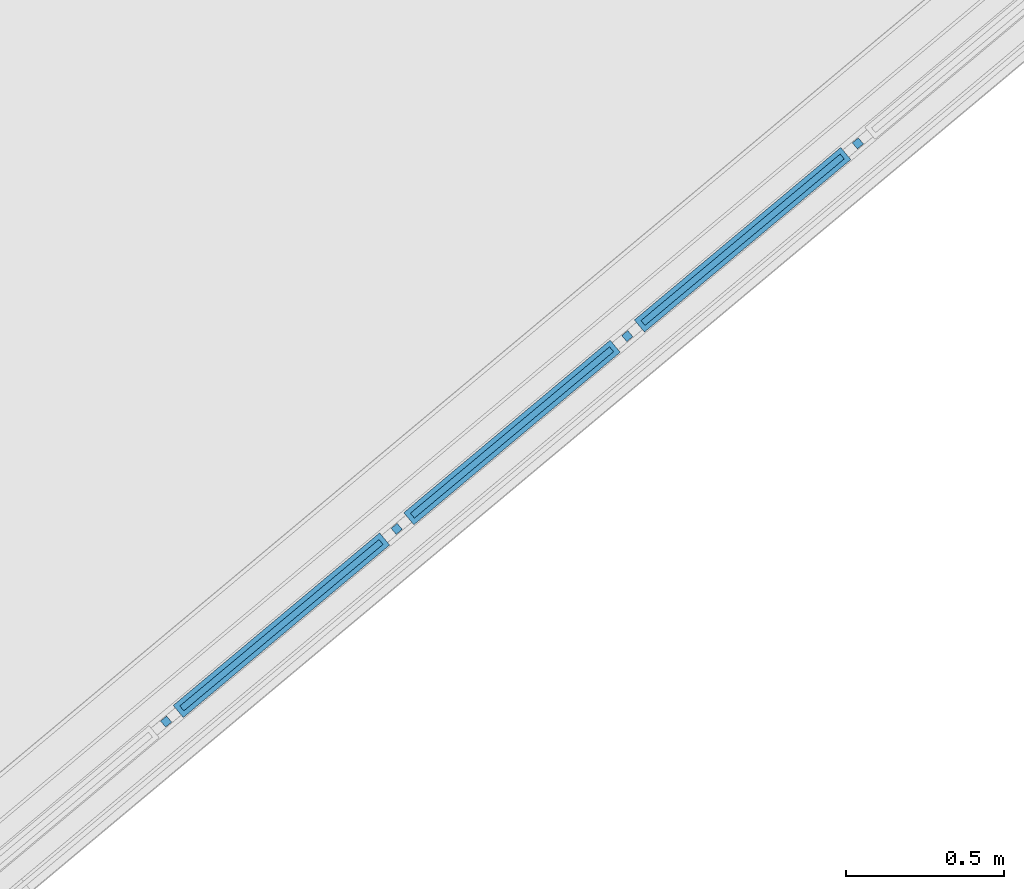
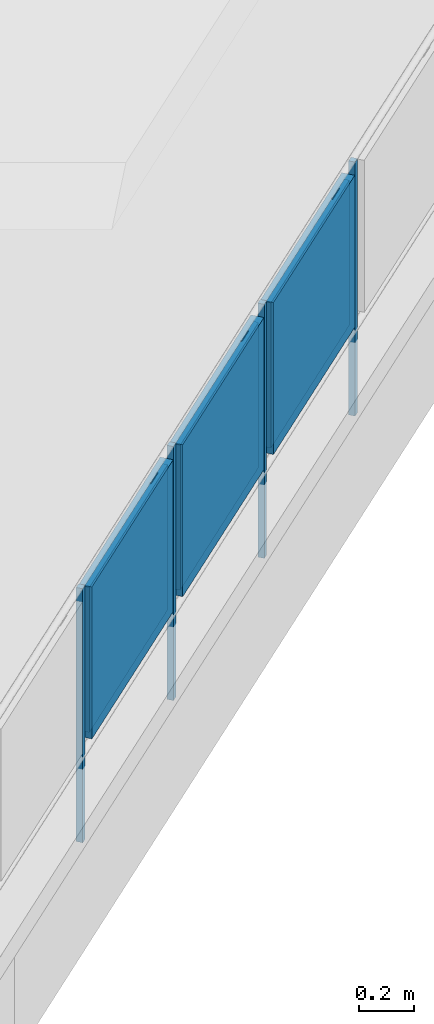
# One storey, part 16 of 50: 10 building element parts, 1 element without a shape of its own.
"""IFC4 building model written with IfcOpenShell, lengths in metres."""

import ifcopenshell
import ifcopenshell.guid

model = None  # the IFC model being written
_history = None  # IfcOwnerHistory: only IFC2X3 demands one
_inside = {}  # id of a spatial element -> (the spatial element, [elements in it])
_under = {}  # id of a project, library or spatial element -> (it, [spatial elements below it])
_declared = {}  # id of a project -> (the project, [libraries it declares])
_typed = {}  # id of a type object -> (the type object, [elements of that type])
_made_of = {}  # id of a material, layer set ... -> (it, [elements and type objects made of it])


def new_model(schema):
    """Start an empty IFC model of exactly this schema.

    Asked for "IFC4X3", IfcOpenShell would pick the latest addendum, in which some entities
    have other attributes; the version numbers below select the first issue.
    IFC2X3 requires an IfcOwnerHistory on every rooted entity: one is made here for all.
    """
    global model, _history
    if schema == "IFC4X3":
        model = ifcopenshell.file(schema_version=(4, 3, 0, 0))
    else:
        model = ifcopenshell.file(schema=schema)
    _inside.clear()
    _under.clear()
    _declared.clear()
    _typed.clear()
    _made_of.clear()
    _history = None
    if model.schema == "IFC2X3":
        org = make("IfcOrganization", Name="unknown")
        user = make(
            "IfcPersonAndOrganization",
            ThePerson=make("IfcPerson", FamilyName="unknown"),
            TheOrganization=org,
        )
        app = make(
            "IfcApplication",
            ApplicationDeveloper=org,
            Version="unknown",
            ApplicationFullName="unknown",
            ApplicationIdentifier="unknown",
        )
        _history = make(
            "IfcOwnerHistory",
            OwningUser=user,
            OwningApplication=app,
            ChangeAction="ADDED",
            CreationDate=0,
        )
    return model


def make(cls, **values):
    """One entity of the class cls with the attributes given. An attribute that is None is left unset."""
    return model.create_entity(
        cls, **{name: value for name, value in values.items() if value is not None}
    )


def entity(cls, *values):
    """Any entity or typed value of the class cls, its attributes in the order of the schema. None: left unset."""
    e = model.create_entity(cls)
    for i, value in enumerate(values):
        if value is not None:
            e[i] = value
    return e


def rooted(cls, **values):
    """An entity with a GlobalId (a new one), such as an element, a storey or a relation."""
    return make(cls, GlobalId=ifcopenshell.guid.new(), OwnerHistory=_history, **values)


def si_unit(unit_type, name, prefix=None):
    """IfcSIUnit, for example si_unit("LENGTHUNIT", "METRE", prefix="MILLI")."""
    return make("IfcSIUnit", UnitType=unit_type, Prefix=prefix, Name=name)


def converted_unit(unit_type, name, factor, base, dimensions=None, offset=None):
    """IfcConversionBasedUnit, such as the inch: factor (a typed value) times the base unit."""
    return make(
        "IfcConversionBasedUnit"
        if offset is None
        else "IfcConversionBasedUnitWithOffset",
        ConversionOffset=offset,
        Dimensions=None
        if dimensions is None
        else entity("IfcDimensionalExponents", *dimensions),
        UnitType=unit_type,
        Name=name,
        ConversionFactor=make(
            "IfcMeasureWithUnit", ValueComponent=factor, UnitComponent=base
        ),
    )


def derived_unit(unit_type, elements):
    """IfcDerivedUnit: a product of units, each with its exponent."""
    return make(
        "IfcDerivedUnit",
        Elements=[
            make("IfcDerivedUnitElement", Unit=unit, Exponent=power)
            for unit, power in elements
        ],
        UnitType=unit_type,
    )


def assignment(units):
    """IfcUnitAssignment: the units of a project."""
    return None if units is None else make("IfcUnitAssignment", Units=units)


def point(xyz):
    """IfcCartesianPoint."""
    return None if xyz is None else make("IfcCartesianPoint", Coordinates=xyz)


def direction(xyz):
    """IfcDirection."""
    return None if xyz is None else make("IfcDirection", DirectionRatios=xyz)


def frame(location, z_axis=None, x_axis=None):
    """IfcAxis2Placement3D, a coordinate frame: its origin and axes. An axis left out is left unset."""
    return make(
        "IfcAxis2Placement3D",
        Location=point(location),
        Axis=direction(z_axis),
        RefDirection=direction(x_axis),
    )


def origin_with_axes():
    """The frame at (0, 0, 0) with the z axis (0, 0, 1) and the x axis (1, 0, 0) written out."""
    return frame((0.0, 0.0, 0.0), z_axis=(0.0, 0.0, 1.0), x_axis=(1.0, 0.0, 0.0))


def place(relative_to, where):
    """IfcLocalPlacement: puts the frame where relative to a parent placement (None: the world)."""
    return make(
        "IfcLocalPlacement", PlacementRelTo=relative_to, RelativePlacement=where
    )


def context(
    kind, dimensions, precision=None, world=None, true_north=None, identifier=None
):
    """IfcGeometricRepresentationContext, for example the 3D "Model" context."""
    return make(
        "IfcGeometricRepresentationContext",
        ContextIdentifier=identifier,
        ContextType=kind,
        CoordinateSpaceDimension=dimensions,
        Precision=precision,
        WorldCoordinateSystem=world,
        TrueNorth=true_north,
    )


def subcontext(parent, identifier, kind, view, scale=None):
    """IfcGeometricRepresentationSubContext, for example "Body" below "Model"."""
    return make(
        "IfcGeometricRepresentationSubContext",
        ContextIdentifier=identifier,
        ContextType=kind,
        ParentContext=parent,
        TargetScale=scale,
        TargetView=view,
    )


def project(units=None, contexts=None):
    """IfcProject with its units and contexts."""
    return rooted(
        "IfcProject",
        Name="project",
        RepresentationContexts=contexts,
        UnitsInContext=assignment(units),
    )


def spatial(cls, under=None, at=None, **own):
    """A site, building, storey or space (cls), placed at a placement, below another one or the project."""
    s = rooted(cls, ObjectPlacement=at, **own)
    if under is not None:
        _under.setdefault(under.id(), (under, []))[1].append(s)
    return s


def point_list(points):
    """IfcCartesianPointList2D or 3D."""
    cls = (
        "IfcCartesianPointList2D" if len(points[0]) == 2 else "IfcCartesianPointList3D"
    )
    return make(cls, CoordList=points)


def polygons(points, faces, closed=None, point_numbers=None):
    """IfcPolygonalFaceSet: a face is its outer loop, then its inner loops; points numbered from 1."""
    made = []
    for loops in faces:
        if len(loops) == 1:
            made.append(make("IfcIndexedPolygonalFace", CoordIndex=loops[0]))
        else:
            made.append(
                make(
                    "IfcIndexedPolygonalFaceWithVoids",
                    CoordIndex=loops[0],
                    InnerCoordIndices=loops[1:],
                )
            )
    return make(
        "IfcPolygonalFaceSet",
        Coordinates=point_list(points),
        Closed=closed,
        Faces=made,
        PnIndex=point_numbers,
    )


def shape(context_of_items, identifier, shape_type, items):
    """IfcShapeRepresentation: the items that make up one representation, for example the "Body"."""
    return make(
        "IfcShapeRepresentation",
        ContextOfItems=context_of_items,
        RepresentationIdentifier=identifier,
        RepresentationType=shape_type,
        Items=items,
    )


def material(Name=None, Category=None):
    """IfcMaterial."""
    return make("IfcMaterial", Name=Name, Category=Category)


def made_of(thing, what):
    """Note that an element or type object is made of a material, layer set ...; save() writes the relation."""
    if what is not None:
        _made_of.setdefault(what.id(), (what, []))[1].append(thing)
    return thing


def type_object(cls, material=None, **own):
    """A type object (cls), such as IfcWallType, which elements share."""
    return made_of(rooted(cls, **own), material)


def element(
    cls,
    number,
    at=None,
    inside=None,
    cuts=None,
    type_object=None,
    material=None,
    context=None,
    identifier="Body",
    shape_type=None,
    held_by="IfcProductDefinitionShape",
    body=None,
    shapes=None,
    **own,
):
    """One element of the class cls, such as IfcWall. Its Tag is "e" and its number.

    at: its placement. inside: the storey or other place that contains it. cuts: it is an
    opening in that element (IfcRelVoidsElement). A single representation is given by context,
    identifier, shape_type and body (its items); several are given by shapes. held_by: the class
    of the entity that holds the representations. save() writes the other relations.
    """
    e = rooted(cls, Tag="e%d" % number, ObjectPlacement=at, **own)
    if body is not None:
        shapes = [shape(context, identifier, shape_type, body)]
    if shapes is not None:
        e.Representation = make(held_by, Representations=shapes)
    if inside is not None:
        _inside.setdefault(inside.id(), (inside, []))[1].append(e)
    if cuts is not None:
        rooted(
            "IfcRelVoidsElement", RelatingBuildingElement=cuts, RelatedOpeningElement=e
        )
    if type_object is not None:
        _typed.setdefault(type_object.id(), (type_object, []))[1].append(e)
    return made_of(e, material)


def aggregate(whole, parts):
    """IfcRelAggregates: a whole, such as a stair, and the parts it consists of."""
    return rooted("IfcRelAggregates", RelatingObject=whole, RelatedObjects=parts)


def save(model, path):
    """Write the relations noted so far, then the file.

    IfcRelAggregates (storeys below a building ...), IfcRelContainedInSpatialStructure (elements
    in a storey), IfcRelDefinesByType, IfcRelAssociatesMaterial and IfcRelDeclares: one each for
    every whole, place, type object, material and project.
    """
    for whole, parts in _under.values():
        aggregate(whole, parts)
    for where, things in _inside.values():
        rooted(
            "IfcRelContainedInSpatialStructure",
            RelatedElements=things,
            RelatingStructure=where,
        )
    for kind, things in _typed.values():
        rooted("IfcRelDefinesByType", RelatedObjects=things, RelatingType=kind)
    for what, things in _made_of.values():
        rooted("IfcRelAssociatesMaterial", RelatedObjects=things, RelatingMaterial=what)
    for by, libraries in _declared.values():
        rooted("IfcRelDeclares", RelatingContext=by, RelatedDefinitions=libraries)
    model.write(path)


model = new_model("IFC4")

# Units and contexts
model_context = context("Model", 3, precision=1e-05, world=origin_with_axes(), true_north=direction((0.0, 1.0)))
body_context = subcontext(model_context, "Body", "Model", "MODEL_VIEW")
ifc_project = project(units=[si_unit("LENGTHUNIT", "METRE"), si_unit("AREAUNIT", "SQUARE_METRE"), si_unit("VOLUMEUNIT", "CUBIC_METRE"), converted_unit("PLANEANGLEUNIT", "DEGREE", entity("IfcPlaneAngleMeasure", 0.0174532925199), si_unit("PLANEANGLEUNIT", "RADIAN"), dimensions=[0, 0, 0, 0, 0, 0, 0]), converted_unit("TIMEUNIT", "Year", entity("IfcTimeMeasure", 31556926.0), si_unit("TIMEUNIT", "SECOND"), dimensions=[0, 0, 1, 0, 0, 0, 0]), si_unit("MASSUNIT", "GRAM", prefix="KILO"), si_unit("THERMODYNAMICTEMPERATUREUNIT", "DEGREE_CELSIUS"), si_unit("LUMINOUSINTENSITYUNIT", "LUMEN"), si_unit("ENERGYUNIT", "JOULE", prefix="MEGA"), derived_unit("THERMALCONDUCTANCEUNIT", [(si_unit("POWERUNIT", "WATT"), 1), (si_unit("LENGTHUNIT", "METRE"), -1), (si_unit("THERMODYNAMICTEMPERATUREUNIT", "KELVIN"), -1)]), derived_unit("SPECIFICHEATCAPACITYUNIT", [(si_unit("ENERGYUNIT", "JOULE"), 1), (si_unit("MASSUNIT", "GRAM", prefix="KILO"), -1), (si_unit("THERMODYNAMICTEMPERATUREUNIT", "KELVIN"), -1)]), derived_unit("MASSDENSITYUNIT", [(si_unit("MASSUNIT", "GRAM", prefix="KILO"), 1), (si_unit("VOLUMEUNIT", "CUBIC_METRE"), -1)])], contexts=[model_context])

# Site, building, storey
site_placement = place(None, frame((-0.00153261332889, -0.00661245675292, 0.0), z_axis=(0.0, 0.0, 1.0), x_axis=(1.0, 0.0, 0.0)))
site = spatial("IfcSite", under=ifc_project, at=site_placement, Name="Site", CompositionType="ELEMENT")
building_placement = place(site_placement, origin_with_axes())
building = spatial("IfcBuilding", under=site, at=building_placement, Name="Building", CompositionType="ELEMENT")
storey_placement = place(building_placement, frame((0.0, 0.0, 2.74), z_axis=(0.0, 0.0, 1.0), x_axis=(1.0, 0.0, 0.0)))
storey = spatial("IfcBuildingStorey", under=building, at=storey_placement, Name="OG1", CompositionType="ELEMENT", Elevation=2.74)

# Railing, building element parts
railing_type = type_object("IfcRailingType", Name="Geländerart", PredefinedType="NOTDEFINED")
railing_placement = place(storey_placement, frame((-0.869246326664, 8.34153645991, 0.38), z_axis=(0.0, 0.0, 1.0), x_axis=(1.0, 0.0, 0.0)))
railing = element("IfcRailing", 1, at=railing_placement, inside=storey, type_object=railing_type, Name="Geländer - 001", PredefinedType="NOTDEFINED")
ifc_material_1 = material(Name="Aluminium")
building_element_part_1_placement = place(railing_placement, origin_with_axes())
building_element_part_1 = element("IfcBuildingElementPart", 2, at=building_element_part_1_placement, material=ifc_material_1, Name="Aluminium", PredefinedType="NOTDEFINED", context=body_context, shape_type="Tessellation", body=[
    polygons([(2.17791029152, -1.02276528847, -0.3), (2.1618777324, -1.00358308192, -0.3), (2.1618777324, -1.00358308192, 0.82), (2.17791029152, -1.02276528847, 0.82), (2.15872808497, -1.03879784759, -0.3), (2.14269552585, -1.01961564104, -0.3), (2.14269552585, -1.01961564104, 0.82), (2.15872808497, -1.03879784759, 0.82)], [[[1, 2, 3, 4]], [[1, 5, 6, 2]], [[2, 6, 7, 3]], [[4, 3, 7, 8]], [[5, 1, 4, 8]], [[6, 5, 8, 7]]], closed=True),
])
ifc_material_2 = material(Name="Profilit")
building_element_part_2_placement = place(railing_placement, origin_with_axes())
building_element_part_2 = element("IfcBuildingElementPart", 3, at=building_element_part_2_placement, material=ifc_material_2, Name="Profilit", PredefinedType="NOTDEFINED", context=body_context, shape_type="Tessellation", body=[
    polygons([(2.83575683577, -0.443610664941, 0.135), (2.20376362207, -0.971832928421, 0.135), (2.20376362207, -0.971832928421, 0.775), (2.83575683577, -0.443610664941, 0.775), (2.21658966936, -0.98717869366, 0.135), (2.84858288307, -0.45895643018, 0.135), (2.21658966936, -0.98717869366, 0.775), (2.84858288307, -0.45895643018, 0.775)], [[[1, 2, 3, 4]], [[5, 2, 1, 6]], [[7, 3, 2, 5]], [[4, 3, 7, 8]], [[1, 4, 8, 6]], [[7, 5, 6, 8]]], closed=True),
])
building_element_part_3_placement = place(railing_placement, origin_with_axes())
building_element_part_3 = element("IfcBuildingElementPart", 4, at=building_element_part_3_placement, material=ifc_material_1, Name="Aluminium", PredefinedType="NOTDEFINED", context=body_context, shape_type="Tessellation", body=[
    polygons([(2.27379289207, -0.92307688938, 0.12), (2.32750307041, -0.878185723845, 0.12), (2.32750307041, -0.878185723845, 0.095), (2.27379289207, -0.92307688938, 0.095), (2.27699940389, -0.926913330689, 0.12), (2.33070958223, -0.882022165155, 0.12), (2.33070958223, -0.882022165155, 0.095), (2.27699940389, -0.926913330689, 0.095)], [[[1, 2, 3, 4]], [[5, 6, 2, 1]], [[2, 6, 7, 3]], [[4, 3, 7, 8]], [[1, 4, 8, 5]], [[8, 7, 6, 5]]], closed=True),
    polygons([(2.77534710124, -0.503876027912, 0.79), (2.7216369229, -0.548767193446, 0.79), (2.7216369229, -0.548767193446, 0.795), (2.77534710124, -0.503876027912, 0.795), (2.77855361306, -0.507712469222, 0.79), (2.72484343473, -0.552603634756, 0.79), (2.72484343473, -0.552603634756, 0.795), (2.77855361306, -0.507712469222, 0.795)], [[[1, 2, 3, 4]], [[5, 6, 2, 1]], [[2, 6, 7, 3]], [[4, 3, 7, 8]], [[1, 4, 8, 5]], [[8, 7, 6, 5]]], closed=True),
    polygons([(2.21469988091, -1.00830755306, 0.12), (2.18263476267, -0.969943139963, 0.12), (2.83764662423, -0.42248180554, 0.12), (2.86971174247, -0.460846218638, 0.12), (2.23004564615, -0.995481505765, 0.14), (2.22042611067, -0.983972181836, 0.14), (2.21658966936, -0.98717869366, 0.135), (2.20376362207, -0.971832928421, 0.135), (2.20760006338, -0.968626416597, 0.14), (2.19798052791, -0.957117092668, 0.14), (2.82230085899, -0.435307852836, 0.14), (2.82230085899, -0.435307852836, 0.77), (2.19798052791, -0.957117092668, 0.77), (2.19798052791, -0.957117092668, 0.14), (2.18263476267, -0.969943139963, 0.12), (2.18263476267, -0.969943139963, 0.79), (2.83764662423, -0.42248180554, 0.79), (2.86971174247, -0.460846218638, 0.79), (2.21469988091, -1.00830755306, 0.79), (2.21469988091, -1.00830755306, 0.12), (2.23004564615, -0.995481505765, 0.14), (2.23004564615, -0.995481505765, 0.77), (2.85436597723, -0.473672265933, 0.77), (2.85436597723, -0.473672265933, 0.14), (2.84474644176, -0.462162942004, 0.14), (2.84474644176, -0.462162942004, 0.77), (2.22042611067, -0.983972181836, 0.77), (2.22042611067, -0.983972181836, 0.14), (2.21658966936, -0.98717869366, 0.135), (2.21658966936, -0.98717869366, 0.775), (2.84858288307, -0.45895643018, 0.775), (2.84858288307, -0.45895643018, 0.135), (2.83575683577, -0.443610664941, 0.135), (2.83575683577, -0.443610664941, 0.775), (2.20376362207, -0.971832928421, 0.775), (2.20376362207, -0.971832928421, 0.135), (2.20760006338, -0.968626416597, 0.14), (2.20760006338, -0.968626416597, 0.77), (2.83192039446, -0.446817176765, 0.77), (2.83192039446, -0.446817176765, 0.14)], [[[1, 2, 3, 4]], [[1, 5, 6, 7, 8, 9, 10, 2]], [[2, 10, 11, 12, 13, 14, 15, 16, 17, 3]], [[4, 3, 17, 18]], [[5, 1, 4, 18, 19, 20, 21, 22, 23, 24]], [[6, 5, 24, 25]], [[7, 6, 25, 26, 27, 28, 29, 30, 31, 32]], [[8, 7, 32, 33]], [[9, 8, 33, 34, 35, 36, 37, 38, 39, 40]], [[10, 9, 40, 11]], [[11, 40, 39, 12]], [[12, 39, 38, 13]], [[13, 38, 37, 14]], [[20, 15, 14, 37, 36, 29, 28, 21]], [[19, 16, 15, 20]], [[18, 17, 16, 19]], [[27, 22, 21, 28]], [[26, 23, 22, 27]], [[25, 24, 23, 26]], [[35, 30, 29, 36]], [[34, 31, 30, 35]], [[33, 32, 31, 34]]], closed=True),
])
building_element_part_4_placement = place(railing_placement, origin_with_axes())
building_element_part_4 = element("IfcBuildingElementPart", 5, at=building_element_part_4_placement, material=ifc_material_1, Name="Aluminium", PredefinedType="NOTDEFINED", context=body_context, shape_type="Tessellation", body=[
    polygons([(2.90965097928, -0.411173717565, -0.3), (2.89361842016, -0.391991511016, -0.3), (2.89361842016, -0.391991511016, 0.82), (2.90965097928, -0.411173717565, 0.82), (2.89046877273, -0.427206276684, -0.3), (2.87443621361, -0.408024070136, -0.3), (2.87443621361, -0.408024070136, 0.82), (2.89046877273, -0.427206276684, 0.82)], [[[1, 2, 3, 4]], [[1, 5, 6, 2]], [[2, 6, 7, 3]], [[4, 3, 7, 8]], [[5, 1, 4, 8]], [[6, 5, 8, 7]]], closed=True),
])
building_element_part_5_placement = place(railing_placement, origin_with_axes())
building_element_part_5 = element("IfcBuildingElementPart", 6, at=building_element_part_5_placement, material=ifc_material_2, Name="Profilit", PredefinedType="NOTDEFINED", context=body_context, shape_type="Tessellation", body=[
    polygons([(3.56749752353, 0.167980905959, 0.135), (2.93550430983, -0.36024135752, 0.135), (2.93550430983, -0.36024135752, 0.775), (3.56749752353, 0.167980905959, 0.775), (2.94833035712, -0.375587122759, 0.135), (3.58032357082, 0.15263514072, 0.135), (2.94833035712, -0.375587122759, 0.775), (3.58032357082, 0.15263514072, 0.775)], [[[1, 2, 3, 4]], [[5, 2, 1, 6]], [[7, 3, 2, 5]], [[4, 3, 7, 8]], [[1, 4, 8, 6]], [[7, 5, 6, 8]]], closed=True),
])
building_element_part_6_placement = place(railing_placement, origin_with_axes())
building_element_part_6 = element("IfcBuildingElementPart", 7, at=building_element_part_6_placement, material=ifc_material_1, Name="Aluminium", PredefinedType="NOTDEFINED", context=body_context, shape_type="Tessellation", body=[
    polygons([(3.00553357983, -0.311485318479, 0.12), (3.05924375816, -0.266594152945, 0.12), (3.05924375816, -0.266594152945, 0.095), (3.00553357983, -0.311485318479, 0.095), (3.00874009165, -0.315321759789, 0.12), (3.06245026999, -0.270430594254, 0.12), (3.06245026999, -0.270430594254, 0.095), (3.00874009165, -0.315321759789, 0.095)], [[[1, 2, 3, 4]], [[5, 6, 2, 1]], [[2, 6, 7, 3]], [[4, 3, 7, 8]], [[1, 4, 8, 5]], [[8, 7, 6, 5]]], closed=True),
    polygons([(3.507087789, 0.107715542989, 0.79), (3.45337761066, 0.0628243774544, 0.79), (3.45337761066, 0.0628243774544, 0.795), (3.507087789, 0.107715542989, 0.795), (3.51029430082, 0.103879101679, 0.79), (3.45658412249, 0.0589879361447, 0.79), (3.45658412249, 0.0589879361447, 0.795), (3.51029430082, 0.103879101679, 0.795)], [[[1, 2, 3, 4]], [[5, 6, 2, 1]], [[2, 6, 7, 3]], [[4, 3, 7, 8]], [[1, 4, 8, 5]], [[8, 7, 6, 5]]], closed=True),
    polygons([(2.94644056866, -0.39671598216, 0.12), (2.91437545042, -0.358351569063, 0.12), (3.56938731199, 0.18910976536, 0.12), (3.60145243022, 0.150745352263, 0.12), (2.9617863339, -0.383889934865, 0.14), (2.95216679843, -0.372380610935, 0.14), (2.94833035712, -0.375587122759, 0.135), (2.93550430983, -0.36024135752, 0.135), (2.93934075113, -0.357034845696, 0.14), (2.92972121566, -0.345525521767, 0.14), (3.55404154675, 0.176283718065, 0.14), (3.55404154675, 0.176283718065, 0.77), (2.92972121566, -0.345525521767, 0.77), (2.92972121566, -0.345525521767, 0.14), (2.91437545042, -0.358351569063, 0.12), (2.91437545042, -0.358351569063, 0.79), (3.56938731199, 0.18910976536, 0.79), (3.60145243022, 0.150745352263, 0.79), (2.94644056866, -0.39671598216, 0.79), (2.94644056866, -0.39671598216, 0.12), (2.9617863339, -0.383889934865, 0.14), (2.9617863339, -0.383889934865, 0.77), (3.58610666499, 0.137919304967, 0.77), (3.58610666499, 0.137919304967, 0.14), (3.57648712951, 0.149428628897, 0.14), (3.57648712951, 0.149428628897, 0.77), (2.95216679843, -0.372380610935, 0.77), (2.95216679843, -0.372380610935, 0.14), (2.94833035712, -0.375587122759, 0.135), (2.94833035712, -0.375587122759, 0.775), (3.58032357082, 0.15263514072, 0.775), (3.58032357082, 0.15263514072, 0.135), (3.56749752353, 0.167980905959, 0.135), (3.56749752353, 0.167980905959, 0.775), (2.93550430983, -0.36024135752, 0.775), (2.93550430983, -0.36024135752, 0.135), (2.93934075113, -0.357034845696, 0.14), (2.93934075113, -0.357034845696, 0.77), (3.56366108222, 0.164774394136, 0.77), (3.56366108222, 0.164774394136, 0.14)], [[[1, 2, 3, 4]], [[1, 5, 6, 7, 8, 9, 10, 2]], [[2, 10, 11, 12, 13, 14, 15, 16, 17, 3]], [[4, 3, 17, 18]], [[5, 1, 4, 18, 19, 20, 21, 22, 23, 24]], [[6, 5, 24, 25]], [[7, 6, 25, 26, 27, 28, 29, 30, 31, 32]], [[8, 7, 32, 33]], [[9, 8, 33, 34, 35, 36, 37, 38, 39, 40]], [[10, 9, 40, 11]], [[11, 40, 39, 12]], [[12, 39, 38, 13]], [[13, 38, 37, 14]], [[20, 15, 14, 37, 36, 29, 28, 21]], [[19, 16, 15, 20]], [[18, 17, 16, 19]], [[27, 22, 21, 28]], [[26, 23, 22, 27]], [[25, 24, 23, 26]], [[35, 30, 29, 36]], [[34, 31, 30, 35]], [[33, 32, 31, 34]]], closed=True),
])
building_element_part_7_placement = place(railing_placement, origin_with_axes())
building_element_part_7 = element("IfcBuildingElementPart", 8, at=building_element_part_7_placement, material=ifc_material_1, Name="Aluminium", PredefinedType="NOTDEFINED", context=body_context, shape_type="Tessellation", body=[
    polygons([(3.64139166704, 0.200417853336, -0.3), (3.62535910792, 0.219600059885, -0.3), (3.62535910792, 0.219600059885, 0.82), (3.64139166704, 0.200417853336, 0.82), (3.62220946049, 0.184385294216, -0.3), (3.60617690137, 0.203567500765, -0.3), (3.60617690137, 0.203567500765, 0.82), (3.62220946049, 0.184385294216, 0.82)], [[[1, 2, 3, 4]], [[1, 5, 6, 2]], [[2, 6, 7, 3]], [[4, 3, 7, 8]], [[5, 1, 4, 8]], [[6, 5, 8, 7]]], closed=True),
])
building_element_part_8_placement = place(railing_placement, origin_with_axes())
building_element_part_8 = element("IfcBuildingElementPart", 9, at=building_element_part_8_placement, material=ifc_material_2, Name="Profilit", PredefinedType="NOTDEFINED", context=body_context, shape_type="Tessellation", body=[
    polygons([(4.29923821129, 0.77957247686, 0.135), (3.66724499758, 0.25135021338, 0.135), (3.66724499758, 0.25135021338, 0.775), (4.29923821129, 0.77957247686, 0.775), (3.68007104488, 0.236004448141, 0.135), (4.31206425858, 0.764226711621, 0.135), (3.68007104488, 0.236004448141, 0.775), (4.31206425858, 0.764226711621, 0.775)], [[[1, 2, 3, 4]], [[5, 2, 1, 6]], [[7, 3, 2, 5]], [[4, 3, 7, 8]], [[1, 4, 8, 6]], [[7, 5, 6, 8]]], closed=True),
])
building_element_part_9_placement = place(railing_placement, origin_with_axes())
building_element_part_9 = element("IfcBuildingElementPart", 10, at=building_element_part_9_placement, material=ifc_material_1, Name="Aluminium", PredefinedType="NOTDEFINED", context=body_context, shape_type="Tessellation", body=[
    polygons([(3.73727426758, 0.300106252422, 0.12), (3.79098444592, 0.344997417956, 0.12), (3.79098444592, 0.344997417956, 0.095), (3.73727426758, 0.300106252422, 0.095), (3.74048077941, 0.296269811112, 0.12), (3.79419095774, 0.341160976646, 0.12), (3.79419095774, 0.341160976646, 0.095), (3.74048077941, 0.296269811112, 0.095)], [[[1, 2, 3, 4]], [[5, 6, 2, 1]], [[2, 6, 7, 3]], [[4, 3, 7, 8]], [[1, 4, 8, 5]], [[8, 7, 6, 5]]], closed=True),
    polygons([(4.23882847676, 0.719307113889, 0.79), (4.18511829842, 0.674415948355, 0.79), (4.18511829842, 0.674415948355, 0.795), (4.23882847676, 0.719307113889, 0.795), (4.24203498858, 0.71547067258, 0.79), (4.18832481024, 0.670579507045, 0.79), (4.18832481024, 0.670579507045, 0.795), (4.24203498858, 0.71547067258, 0.795)], [[[1, 2, 3, 4]], [[5, 6, 2, 1]], [[2, 6, 7, 3]], [[4, 3, 7, 8]], [[1, 4, 8, 5]], [[8, 7, 6, 5]]], closed=True),
    polygons([(3.67818125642, 0.21487558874, 0.12), (3.64611613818, 0.253240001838, 0.12), (4.30112799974, 0.800701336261, 0.12), (4.33319311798, 0.762336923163, 0.12), (3.69352702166, 0.227701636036, 0.14), (3.68390748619, 0.239210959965, 0.14), (3.68007104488, 0.236004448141, 0.135), (3.66724499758, 0.25135021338, 0.135), (3.67108143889, 0.254556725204, 0.14), (3.66146190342, 0.266066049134, 0.14), (4.2857822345, 0.787875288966, 0.14), (4.2857822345, 0.787875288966, 0.77), (3.66146190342, 0.266066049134, 0.77), (3.66146190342, 0.266066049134, 0.14), (3.64611613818, 0.253240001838, 0.12), (3.64611613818, 0.253240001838, 0.79), (4.30112799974, 0.800701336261, 0.79), (4.33319311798, 0.762336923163, 0.79), (3.67818125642, 0.21487558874, 0.79), (3.67818125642, 0.21487558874, 0.12), (3.69352702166, 0.227701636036, 0.14), (3.69352702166, 0.227701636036, 0.77), (4.31784735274, 0.749510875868, 0.77), (4.31784735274, 0.749510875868, 0.14), (4.30822781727, 0.761020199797, 0.14), (4.30822781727, 0.761020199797, 0.77), (3.68390748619, 0.239210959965, 0.77), (3.68390748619, 0.239210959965, 0.14), (3.68007104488, 0.236004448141, 0.135), (3.68007104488, 0.236004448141, 0.775), (4.31206425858, 0.764226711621, 0.775), (4.31206425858, 0.764226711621, 0.135), (4.29923821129, 0.77957247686, 0.135), (4.29923821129, 0.77957247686, 0.775), (3.66724499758, 0.25135021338, 0.775), (3.66724499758, 0.25135021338, 0.135), (3.67108143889, 0.254556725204, 0.14), (3.67108143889, 0.254556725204, 0.77), (4.29540176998, 0.776365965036, 0.77), (4.29540176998, 0.776365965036, 0.14)], [[[1, 2, 3, 4]], [[1, 5, 6, 7, 8, 9, 10, 2]], [[2, 10, 11, 12, 13, 14, 15, 16, 17, 3]], [[4, 3, 17, 18]], [[5, 1, 4, 18, 19, 20, 21, 22, 23, 24]], [[6, 5, 24, 25]], [[7, 6, 25, 26, 27, 28, 29, 30, 31, 32]], [[8, 7, 32, 33]], [[9, 8, 33, 34, 35, 36, 37, 38, 39, 40]], [[10, 9, 40, 11]], [[11, 40, 39, 12]], [[12, 39, 38, 13]], [[13, 38, 37, 14]], [[20, 15, 14, 37, 36, 29, 28, 21]], [[19, 16, 15, 20]], [[18, 17, 16, 19]], [[27, 22, 21, 28]], [[26, 23, 22, 27]], [[25, 24, 23, 26]], [[35, 30, 29, 36]], [[34, 31, 30, 35]], [[33, 32, 31, 34]]], closed=True),
])
building_element_part_10_placement = place(railing_placement, origin_with_axes())
building_element_part_10 = element("IfcBuildingElementPart", 11, at=building_element_part_10_placement, material=ifc_material_1, Name="Aluminium", PredefinedType="NOTDEFINED", context=body_context, shape_type="Tessellation", body=[
    polygons([(4.37313235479, 0.812009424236, -0.3), (4.35709979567, 0.831191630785, -0.3), (4.35709979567, 0.831191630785, 0.82), (4.37313235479, 0.812009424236, 0.82), (4.35395014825, 0.795976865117, -0.3), (4.33791758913, 0.815159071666, -0.3), (4.33791758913, 0.815159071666, 0.82), (4.35395014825, 0.795976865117, 0.82)], [[[1, 2, 3, 4]], [[1, 5, 6, 2]], [[2, 6, 7, 3]], [[4, 3, 7, 8]], [[5, 1, 4, 8]], [[6, 5, 8, 7]]], closed=True),
])
aggregate(railing, [building_element_part_1, building_element_part_2, building_element_part_3, building_element_part_4, building_element_part_5, building_element_part_6, building_element_part_7, building_element_part_8, building_element_part_9, building_element_part_10])

save(model, "model.ifc")
